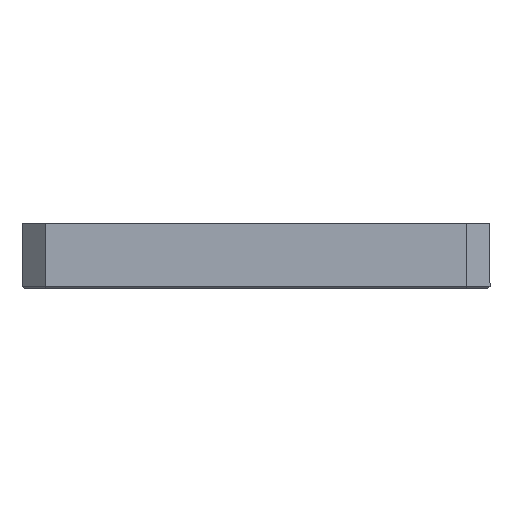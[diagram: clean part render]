
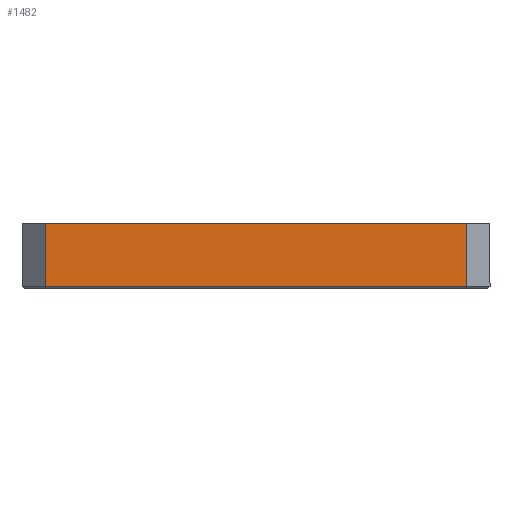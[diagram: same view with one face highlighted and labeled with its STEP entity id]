
A CAD part, front view. The second image highlights one B-rep face of the part: STEP entity #1482.
In plain terms, the highlighted planar face has unit normal (0, -1, 0).
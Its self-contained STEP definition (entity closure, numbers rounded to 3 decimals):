
#230=FACE_OUTER_BOUND('',#324,.T.);
#324=EDGE_LOOP('',(#1105,#1106,#1107,#1108));
#401=LINE('',#1953,#511);
#424=LINE('',#1997,#534);
#443=LINE('',#2081,#553);
#444=LINE('',#2083,#554);
#511=VECTOR('',#1658,10.);
#534=VECTOR('',#1699,10.);
#553=VECTOR('',#1798,10.);
#554=VECTOR('',#1801,10.);
#619=VERTEX_POINT('',#1946);
#621=VERTEX_POINT('',#1952);
#633=VERTEX_POINT('',#1996);
#658=VERTEX_POINT('',#2079);
#763=EDGE_CURVE('',#621,#619,#401,.T.);
#786=EDGE_CURVE('',#619,#633,#424,.T.);
#828=EDGE_CURVE('',#658,#621,#443,.T.);
#829=EDGE_CURVE('',#633,#658,#444,.T.);
#1105=ORIENTED_EDGE('',*,*,#763,.F.);
#1106=ORIENTED_EDGE('',*,*,#828,.F.);
#1107=ORIENTED_EDGE('',*,*,#829,.F.);
#1108=ORIENTED_EDGE('',*,*,#786,.F.);
#1435=PLANE('',#1605);
#1482=ADVANCED_FACE('',(#230),#1435,.F.);
#1605=AXIS2_PLACEMENT_3D('',#2082,#1799,#1800);
#1658=DIRECTION('',(-1.,0.,0.));
#1699=DIRECTION('',(0.,0.,1.));
#1798=DIRECTION('',(0.,0.,-1.));
#1799=DIRECTION('center_axis',(0.,1.,0.));
#1800=DIRECTION('ref_axis',(-1.,0.,0.));
#1801=DIRECTION('',(1.,0.,0.));
#1946=CARTESIAN_POINT('',(-48.,-50.,81.5));
#1952=CARTESIAN_POINT('',(42.,-50.,81.5));
#1953=CARTESIAN_POINT('',(21.85,-50.,81.5));
#1996=CARTESIAN_POINT('',(-48.,-50.,95.));
#1997=CARTESIAN_POINT('',(-48.,-50.,80.));
#2079=CARTESIAN_POINT('',(42.,-50.,95.));
#2081=CARTESIAN_POINT('',(42.,-50.,80.));
#2082=CARTESIAN_POINT('Origin',(47.,-50.,80.));
#2083=CARTESIAN_POINT('',(-53.,-50.,95.));
